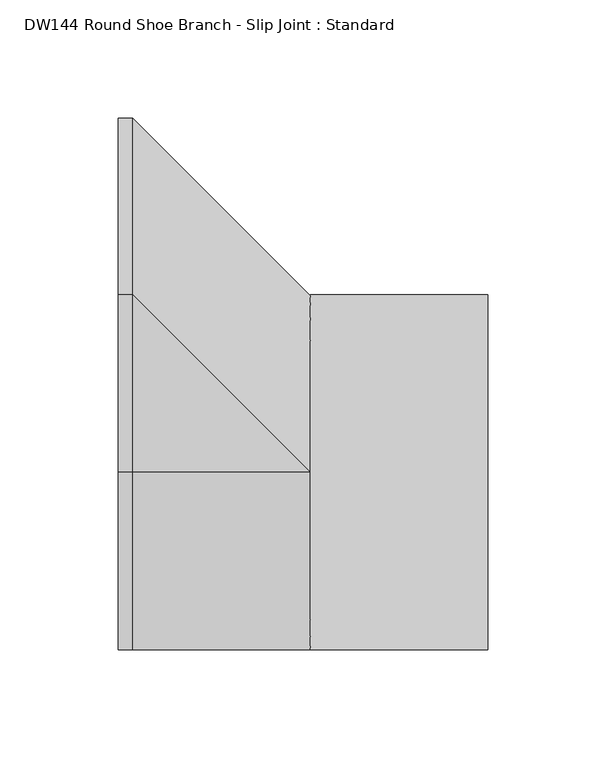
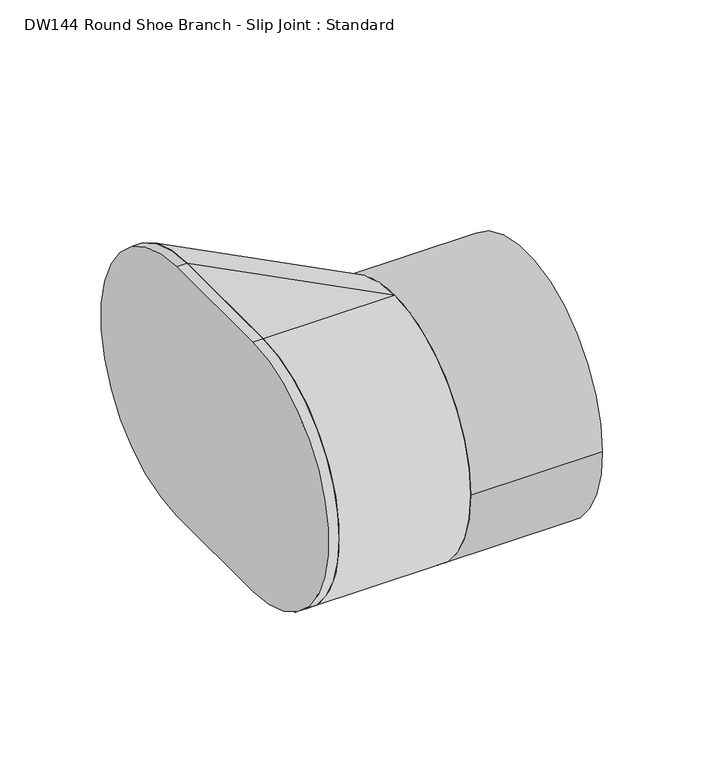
"""IFC4 building model written with IfcOpenShell, lengths in millimetres: duct fitting geometry, DW144 Round Shoe Branch - Slip Joint : Standard."""

from ifc_helpers import new_model, si_unit, point, frame, frame_2d, origin, origin_2d, place, context, project, spatial, polyline, circle_curve, trimmed, segment, composite_curve, outline, extrude, source, transform, mapped, element, save
from ifc_brep_helpers import plane_surface, cylinder_surface, extruded_surface, advanced_brep


def dw144_round_shoe_branch_slip_joint_standard_22813325(model_context):
    return source(origin(), model_context, "Body", "SolidModel", [
        extrude(outline(composite_curve([segment(trimmed(circle_curve(origin_2d(), 75.0), [point((75.0, 0.0))], [point((-75.0, 0.0))], False, "CARTESIAN"), True, "CONTINUOUS"), segment(trimmed(circle_curve(origin_2d(), 75.0), [point((-75.0, 0.0))], [point((75.0, 0.0))], False, "CARTESIAN"), True, "CONTINUOUS")], self_intersect=False)), frame((75.0, 0.0, 0.0), z_axis=(1.0, 0.0, 0.0), x_axis=(0.0, 1.0, 0.0)), (0.0, 0.0, 1.0), 75.0),
        advanced_brep(
        [(75.0, 0.0, -75.0), (75.0, 0.0, 75.0), (0.0, 0.0, -75.0), (0.0, 0.0, 75.0), (0.0, 75.0, 75.0), (0.0, 75.0, -75.0)],
        [
            (0, 1, circle_curve(frame((75.0, 0.0, 0.0), z_axis=(1.0, 0.0, 0.0), x_axis=(0.0, -1.0, 0.0)), 75.0)),
            (1, 0, circle_curve(frame((75.0, 0.0, 0.0), z_axis=(1.0, 0.0, 0.0), x_axis=(0.0, -1.0, 0.0)), 75.0)),
            (2, 3, circle_curve(frame((0.0, 0.0, 0.0), z_axis=(-1.0, 0.0, 0.0), x_axis=(0.0, -1.0, 0.0)), 75.0)),
            (3, 4),
            (4, 5, circle_curve(frame((0.0, 75.0, 0.0), z_axis=(-1.0, 0.0, 0.0), x_axis=(0.0, -1.0, 0.0)), 75.0)),
            (5, 2),
            (2, 0),
            (1, 3),
            (1, 4),
            (0, 5),
        ],
        [
            plane_surface(frame((75.0, 0.0, 0.0), z_axis=(1.0, 0.0, 0.0), x_axis=(0.0, -1.0, 0.0))),
            plane_surface(frame((0.0, 37.5, 0.0), z_axis=(-1.0, 0.0, 0.0), x_axis=(0.0, -1.0, 0.0))),
            cylinder_surface(frame((0.0, 0.0, 0.0), z_axis=(1.0, 0.0, 0.0), x_axis=(0.0, -1.0, 0.0)), 75.0),
            plane_surface(frame((0.0, 37.5, 75.0), z_axis=(0.0, 0.0, 1.0), x_axis=(0.0, 1.0, 0.0))),
            extruded_surface(trimmed(circle_curve(frame((75.0, 0.0, 0.0), z_axis=(-1.0, 0.0, 0.0), x_axis=(0.0, -1.0, 0.0)), 75.0), [point((75.0, 0.0, 75.0))], [point((75.0, 0.0, -75.0))], True, "CARTESIAN"), (-75.0, 75.0, 0.0), 106.06601717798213),
            plane_surface(frame((0.0, 37.5, -75.0), z_axis=(0.0, 0.0, -1.0), x_axis=(0.0, -1.0, 0.0))),
        ],
        [
            (0, [[1, 2]]),
            (1, [[3, 4, 5, 6]]),
            (2, [[7, -2, 8, -3]]),
            (3, [[-8, 9, -4]]),
            (4, [[-9, -1, 10, -5]]),
            (5, [[-10, -7, -6]]),
        ],
    ),
        extrude(outline(composite_curve([segment(trimmed(circle_curve(origin_2d(), 75.0), [point((0.0, -75.0))], [point((0.0, 75.0))], False, "CARTESIAN"), True, "CONTINUOUS"), segment(polyline([(0.0, 75.0), (75.0, 75.0)]), True, "CONTINUOUS"), segment(trimmed(circle_curve(frame_2d((75.0, 0.0)), 75.0), [point((75.0, 75.0))], [point((75.0, -75.0))], False, "CARTESIAN"), True, "CONTINUOUS"), segment(polyline([(75.0, -75.0), (0.0, -75.0)]), True, "CONTINUOUS")], self_intersect=False)), frame((-6.096, 0.0, 0.0), z_axis=(1.0, 0.0, 0.0), x_axis=(0.0, 1.0, 0.0)), (0.0, 0.0, 1.0), 6.096),
    ])


if __name__ == "__main__":
    model = new_model("IFC4")
    model_context = context("Model", 3, world=origin())
    ifc_project = project(units=[si_unit("LENGTHUNIT", "METRE", prefix="MILLI")], contexts=[model_context])
    site = spatial("IfcSite", under=ifc_project)
    building = spatial("IfcBuilding", under=site)
    placement = place(None, origin())
    dw144_round_shoe_branch_slip_joint_standard_shape = dw144_round_shoe_branch_slip_joint_standard_22813325(model_context)
    element("IfcDuctFitting", 1, ObjectType="DW144 Round Shoe Branch - Slip Joint : Standard", at=placement, inside=building, context=model_context, shape_type="MappedRepresentation", body=[
        mapped(dw144_round_shoe_branch_slip_joint_standard_shape, transform((0.0, 0.0, 0.0), x_axis=(1.0, 0.0, 0.0), y_axis=(0.0, 1.0, 0.0), z_axis=(0.0, 0.0, 1.0))),
    ])
    save(model, "model.ifc")
